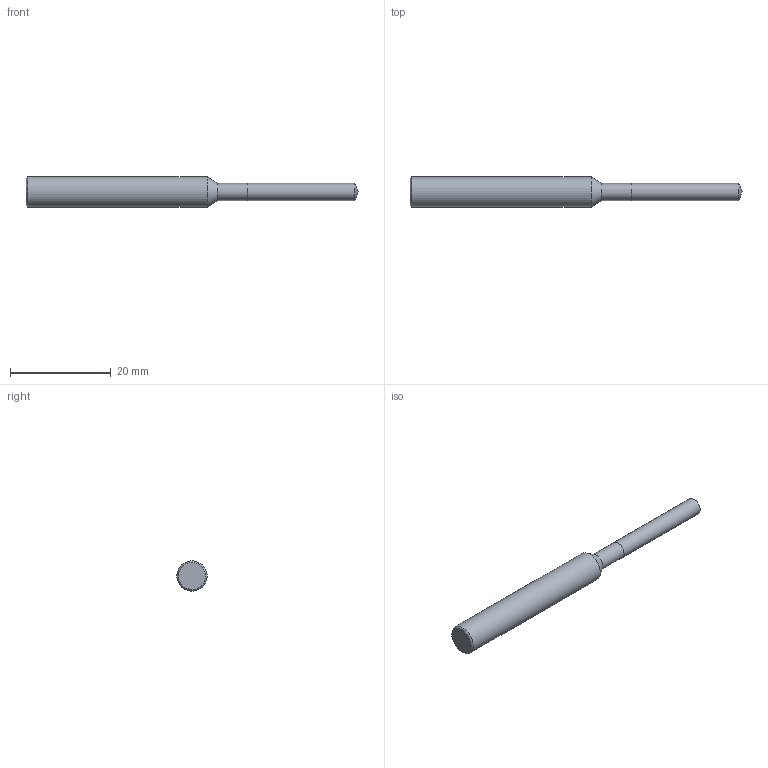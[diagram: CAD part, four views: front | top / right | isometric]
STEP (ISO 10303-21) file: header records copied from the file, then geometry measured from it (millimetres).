
FILE_DESCRIPTION(('STEP'), '1');
FILE_NAME('255570.0050.stp', '2019-03-13T18:06:13', ('TDM Systems GmbH'), ('TDM Systems GmbH'), 'HarmonyWare STEP v2.0.10 Express v3.0.0.0', 'TDM', 'Unknown');
FILE_SCHEMA(('AUTOMOTIVE_DESIGN'));
Length unit declared in the file: millimetre
Products named in the file (1): NONE
Bounding box: 66 x 6 x 5.98 mm (x, y, z)
Volume: 1306.7 mm3; surface area: 1060.7 mm2
Topology: 2 solids, 2 shells, 9 faces, 18 edges, 12 vertices
Faces by surface type: bspline 9
Entity records: 366 total; most frequent: CARTESIAN_POINT 211, ORIENTED_EDGE 26, EDGE_CURVE 13, B_SPLINE_CURVE_WITH_KNOTS 10, ADVANCED_FACE 9, FACE_OUTER_BOUND 9, EDGE_LOOP 9, VERTEX_POINT 8
